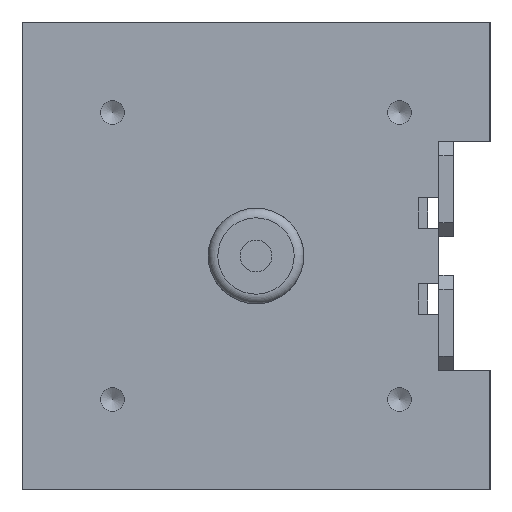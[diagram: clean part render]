
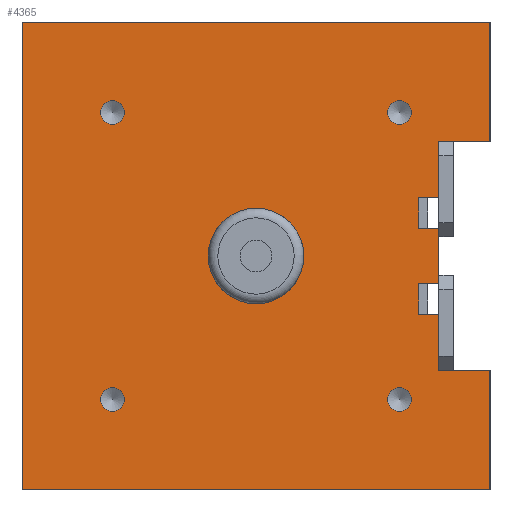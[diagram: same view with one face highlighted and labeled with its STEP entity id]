
A CAD part, front view. The second image highlights one B-rep face of the part: STEP entity #4365.
In plain terms, the highlighted planar face has unit normal (0, -1, 0).
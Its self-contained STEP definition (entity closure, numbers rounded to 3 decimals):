
#2351=CARTESIAN_POINT('',(38.3,0.,5.8));
#2352=VERTEX_POINT('',#2351);
#2359=CARTESIAN_POINT('',(38.3,0.,-5.8));
#2360=VERTEX_POINT('',#2359);
#2361=CARTESIAN_POINT('',(38.3,0.,-5.8));
#2362=DIRECTION('',(0.0,0.0,1.0));
#2363=VECTOR('',#2362,11.6);
#2364=LINE('',#2361,#2363);
#2365=EDGE_CURVE('',#2360,#2352,#2364,.T.);
#2383=CARTESIAN_POINT('',(38.3,0.,-24.));
#2384=VERTEX_POINT('',#2383);
#2391=CARTESIAN_POINT('',(49.0,0.,-24.));
#2392=VERTEX_POINT('',#2391);
#2393=CARTESIAN_POINT('',(49.0,0.,-24.));
#2394=DIRECTION('',(-1.0,0.0,0.0));
#2395=VECTOR('',#2394,10.7);
#2396=LINE('',#2393,#2395);
#2397=EDGE_CURVE('',#2392,#2384,#2396,.T.);
#2432=CARTESIAN_POINT('',(38.3,0.,-12.2));
#2433=VERTEX_POINT('',#2432);
#2440=CARTESIAN_POINT('',(38.3,0.,-24.));
#2441=DIRECTION('',(0.0,0.0,1.0));
#2442=VECTOR('',#2441,11.8);
#2443=LINE('',#2440,#2442);
#2444=EDGE_CURVE('',#2384,#2433,#2443,.T.);
#3502=CARTESIAN_POINT('',(34.1,0.,-5.8));
#3503=VERTEX_POINT('',#3502);
#3504=CARTESIAN_POINT('',(34.1,0.,-5.8));
#3505=DIRECTION('',(1.0,0.0,0.0));
#3506=VECTOR('',#3505,4.2);
#3507=LINE('',#3504,#3506);
#3508=EDGE_CURVE('',#3503,#2360,#3507,.T.);
#3527=CARTESIAN_POINT('',(34.1,0.,-12.2));
#3528=VERTEX_POINT('',#3527);
#3529=CARTESIAN_POINT('',(34.1,0.,-12.2));
#3530=DIRECTION('',(0.0,0.0,1.0));
#3531=VECTOR('',#3530,6.4);
#3532=LINE('',#3529,#3531);
#3533=EDGE_CURVE('',#3528,#3503,#3532,.T.);
#3551=CARTESIAN_POINT('',(38.3,0.,-12.2));
#3552=DIRECTION('',(-1.0,0.0,0.0));
#3553=VECTOR('',#3552,4.2);
#3554=LINE('',#3551,#3553);
#3555=EDGE_CURVE('',#2433,#3528,#3554,.T.);
#3580=CARTESIAN_POINT('',(38.3,0.,24.));
#3581=VERTEX_POINT('',#3580);
#3588=CARTESIAN_POINT('',(38.3,0.,12.2));
#3589=VERTEX_POINT('',#3588);
#3590=CARTESIAN_POINT('',(38.3,0.,12.2));
#3591=DIRECTION('',(0.0,0.0,1.0));
#3592=VECTOR('',#3591,11.8);
#3593=LINE('',#3590,#3592);
#3594=EDGE_CURVE('',#3589,#3581,#3593,.T.);
#3614=CARTESIAN_POINT('',(34.1,0.,12.2));
#3615=VERTEX_POINT('',#3614);
#3616=CARTESIAN_POINT('',(34.1,0.,12.2));
#3617=DIRECTION('',(1.0,0.0,0.0));
#3618=VECTOR('',#3617,4.2);
#3619=LINE('',#3616,#3618);
#3620=EDGE_CURVE('',#3615,#3589,#3619,.T.);
#3639=CARTESIAN_POINT('',(34.1,0.,5.8));
#3640=VERTEX_POINT('',#3639);
#3641=CARTESIAN_POINT('',(34.1,0.,5.8));
#3642=DIRECTION('',(0.0,0.0,1.0));
#3643=VECTOR('',#3642,6.4);
#3644=LINE('',#3641,#3643);
#3645=EDGE_CURVE('',#3640,#3615,#3644,.T.);
#3663=CARTESIAN_POINT('',(38.3,0.,5.8));
#3664=DIRECTION('',(-1.0,0.0,0.0));
#3665=VECTOR('',#3664,4.2);
#3666=LINE('',#3663,#3665);
#3667=EDGE_CURVE('',#2352,#3640,#3666,.T.);
#3684=CARTESIAN_POINT('',(49.0,0.,24.));
#3685=VERTEX_POINT('',#3684);
#3692=CARTESIAN_POINT('',(38.3,0.,24.));
#3693=DIRECTION('',(1.0,0.0,0.0));
#3694=VECTOR('',#3693,10.7);
#3695=LINE('',#3692,#3694);
#3696=EDGE_CURVE('',#3581,#3685,#3695,.T.);
#3709=CARTESIAN_POINT('',(49.0,0.,-49.0));
#3710=VERTEX_POINT('',#3709);
#3711=CARTESIAN_POINT('',(49.0,0.,-49.0));
#3712=DIRECTION('',(0.0,0.0,1.0));
#3713=VECTOR('',#3712,25.0);
#3714=LINE('',#3711,#3713);
#3715=EDGE_CURVE('',#3710,#2392,#3714,.T.);
#3760=CARTESIAN_POINT('',(-30.052,0.,-32.511));
#3761=VERTEX_POINT('',#3760);
#3762=CARTESIAN_POINT('',(-30.052,0.,-30.052));
#3763=DIRECTION('',(0.0,1.0,0.0));
#3764=DIRECTION('',(0.0,0.0,-1.0));
#3765=AXIS2_PLACEMENT_3D('',#3762,#3763,#3764);
#3766=CIRCLE('',#3765,2.459);
#3767=EDGE_CURVE('',#3761,#3761,#3766,.T.);
#3797=CARTESIAN_POINT('',(-30.052,0.,27.594));
#3798=VERTEX_POINT('',#3797);
#3799=CARTESIAN_POINT('',(-30.052,0.,30.052));
#3800=DIRECTION('',(0.0,1.0,0.0));
#3801=DIRECTION('',(0.0,0.0,-1.0));
#3802=AXIS2_PLACEMENT_3D('',#3799,#3800,#3801);
#3803=CIRCLE('',#3802,2.459);
#3804=EDGE_CURVE('',#3798,#3798,#3803,.T.);
#3834=CARTESIAN_POINT('',(30.052,0.,27.594));
#3835=VERTEX_POINT('',#3834);
#3836=CARTESIAN_POINT('',(30.052,0.,30.052));
#3837=DIRECTION('',(0.0,1.0,0.0));
#3838=DIRECTION('',(0.0,0.0,-1.0));
#3839=AXIS2_PLACEMENT_3D('',#3836,#3837,#3838);
#3840=CIRCLE('',#3839,2.459);
#3841=EDGE_CURVE('',#3835,#3835,#3840,.T.);
#3871=CARTESIAN_POINT('',(30.052,0.,-32.511));
#3872=VERTEX_POINT('',#3871);
#3873=CARTESIAN_POINT('',(30.052,0.,-30.052));
#3874=DIRECTION('',(0.0,1.0,0.0));
#3875=DIRECTION('',(0.0,0.0,-1.0));
#3876=AXIS2_PLACEMENT_3D('',#3873,#3874,#3875);
#3877=CIRCLE('',#3876,2.459);
#3878=EDGE_CURVE('',#3872,#3872,#3877,.T.);
#4199=CARTESIAN_POINT('',(-10.0,0.,0.));
#4200=VERTEX_POINT('',#4199);
#4201=CARTESIAN_POINT('',(0.,0.,0.0));
#4202=DIRECTION('',(0.0,1.0,0.0));
#4203=DIRECTION('',(-1.0,0.0,0.0));
#4204=AXIS2_PLACEMENT_3D('',#4201,#4202,#4203);
#4205=CIRCLE('',#4204,10.0);
#4206=EDGE_CURVE('',#4200,#4200,#4205,.T.);
#4226=CARTESIAN_POINT('',(-49.0,0.,49.0));
#4227=VERTEX_POINT('',#4226);
#4234=CARTESIAN_POINT('',(49.0,0.,49.0));
#4235=VERTEX_POINT('',#4234);
#4236=CARTESIAN_POINT('',(49.0,0.,49.0));
#4237=DIRECTION('',(-1.0,0.0,0.0));
#4238=VECTOR('',#4237,98.0);
#4239=LINE('',#4236,#4238);
#4240=EDGE_CURVE('',#4235,#4227,#4239,.T.);
#4263=CARTESIAN_POINT('',(-49.0,0.,-49.0));
#4264=VERTEX_POINT('',#4263);
#4271=CARTESIAN_POINT('',(-49.0,0.,49.0));
#4272=DIRECTION('',(0.0,0.0,-1.0));
#4273=VECTOR('',#4272,98.0);
#4274=LINE('',#4271,#4273);
#4275=EDGE_CURVE('',#4227,#4264,#4274,.T.);
#4294=CARTESIAN_POINT('',(-49.0,0.,-49.0));
#4295=DIRECTION('',(1.0,0.0,0.0));
#4296=VECTOR('',#4295,98.0);
#4297=LINE('',#4294,#4296);
#4298=EDGE_CURVE('',#4264,#3710,#4297,.T.);
#4315=CARTESIAN_POINT('',(49.0,0.,24.0));
#4316=DIRECTION('',(0.0,0.0,1.0));
#4317=VECTOR('',#4316,25.0);
#4318=LINE('',#4315,#4317);
#4319=EDGE_CURVE('',#3685,#4235,#4318,.T.);
#4327=CARTESIAN_POINT('',(0.,0.,0.0));
#4328=DIRECTION('',(0.0,1.0,0.0));
#4329=DIRECTION('',(0.0,0.0,1.0));
#4330=AXIS2_PLACEMENT_3D('',#4327,#4328,#4329);
#4331=PLANE('',#4330);
#4332=ORIENTED_EDGE('',*,*,#3696,.T.);
#4333=ORIENTED_EDGE('',*,*,#4319,.T.);
#4334=ORIENTED_EDGE('',*,*,#4240,.T.);
#4335=ORIENTED_EDGE('',*,*,#4275,.T.);
#4336=ORIENTED_EDGE('',*,*,#4298,.T.);
#4337=ORIENTED_EDGE('',*,*,#3715,.T.);
#4338=ORIENTED_EDGE('',*,*,#2397,.T.);
#4339=ORIENTED_EDGE('',*,*,#2444,.T.);
#4340=ORIENTED_EDGE('',*,*,#3555,.T.);
#4341=ORIENTED_EDGE('',*,*,#3533,.T.);
#4342=ORIENTED_EDGE('',*,*,#3508,.T.);
#4343=ORIENTED_EDGE('',*,*,#2365,.T.);
#4344=ORIENTED_EDGE('',*,*,#3667,.T.);
#4345=ORIENTED_EDGE('',*,*,#3645,.T.);
#4346=ORIENTED_EDGE('',*,*,#3620,.T.);
#4347=ORIENTED_EDGE('',*,*,#3594,.T.);
#4348=EDGE_LOOP('',(#4332,#4333,#4334,#4335,#4336,#4337,#4338,#4339,#4340,#4341,#4342,#4343,#4344,#4345,#4346,#4347));
#4349=FACE_OUTER_BOUND('',#4348,.T.);
#4350=ORIENTED_EDGE('',*,*,#3767,.T.);
#4351=EDGE_LOOP('',(#4350));
#4352=FACE_BOUND('',#4351,.T.);
#4353=ORIENTED_EDGE('',*,*,#3804,.T.);
#4354=EDGE_LOOP('',(#4353));
#4355=FACE_BOUND('',#4354,.T.);
#4356=ORIENTED_EDGE('',*,*,#3841,.T.);
#4357=EDGE_LOOP('',(#4356));
#4358=FACE_BOUND('',#4357,.T.);
#4359=ORIENTED_EDGE('',*,*,#3878,.T.);
#4360=EDGE_LOOP('',(#4359));
#4361=FACE_BOUND('',#4360,.T.);
#4362=ORIENTED_EDGE('',*,*,#4206,.T.);
#4363=EDGE_LOOP('',(#4362));
#4364=FACE_BOUND('',#4363,.T.);
#4365=ADVANCED_FACE('',(#4349,#4352,#4355,#4358,#4361,#4364),#4331,.F.);
